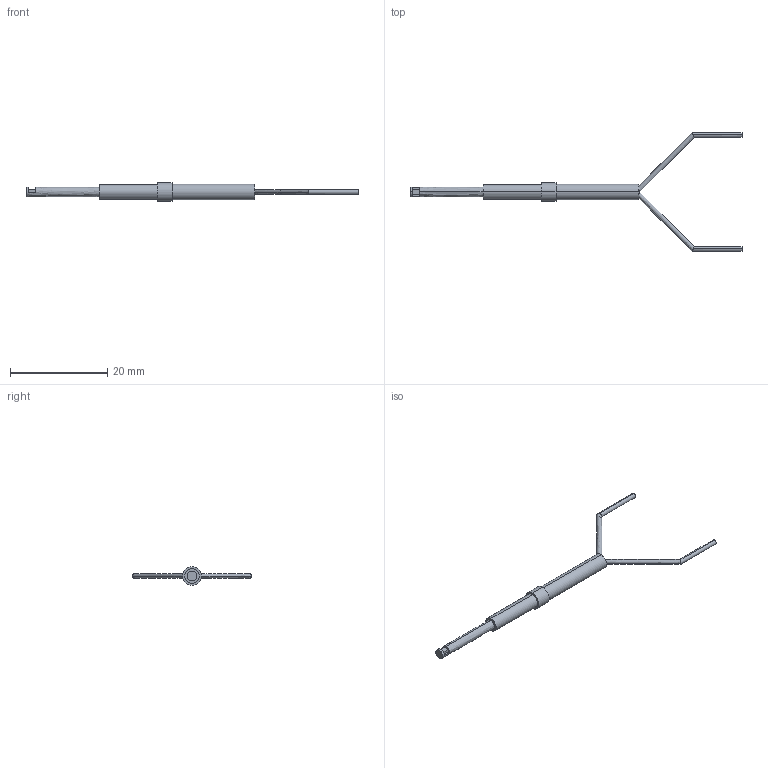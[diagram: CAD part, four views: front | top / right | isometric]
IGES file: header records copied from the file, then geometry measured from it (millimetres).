
Start section: SolidWorks IGES FILE using analytic representation for surfaces
Global section: file name: C:\Documents and Settings\yk0651\デスクトップ\3D_catalog_050904\0_IGES\FD-WV42.IGS; native system: SolidWorks 2004 by SolidWorks Corporation; preprocessor: Version 5.3; author: yk0651; date: 050904.193110; units: millimetre
Bounding box: 68.21 x 24.42 x 3.8 mm (x, y, z)
Volume: 315.2 mm3; surface area: 817.8 mm2
Topology: 3 solids, 3 shells, 39 faces, 83 edges, 54 vertices
Faces by surface type: revolution 22, plane 17
